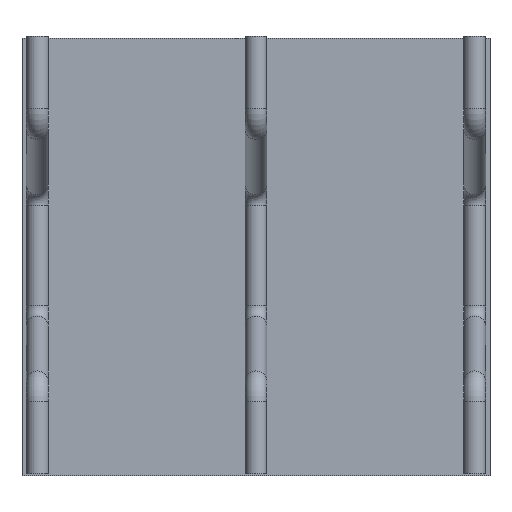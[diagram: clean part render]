
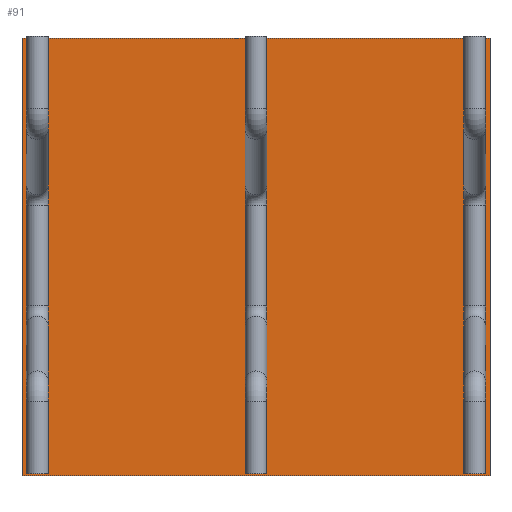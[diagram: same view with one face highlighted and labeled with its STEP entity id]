
A CAD part, top view. The second image highlights one B-rep face of the part: STEP entity #91.
In plain terms, the highlighted planar face has unit normal (0, 0, 1).
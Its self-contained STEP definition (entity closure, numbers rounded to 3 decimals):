
#52=CARTESIAN_POINT('Axis2P3D Location',(0.,0.,0.)) ;
#57=CARTESIAN_POINT('Line Origine',(0.,500.,0.)) ;
#61=CARTESIAN_POINT('Vertex',(535.,500.,0.)) ;
#63=CARTESIAN_POINT('Vertex',(-535.,500.,0.)) ;
#66=CARTESIAN_POINT('Line Origine',(-535.,0.,0.)) ;
#70=CARTESIAN_POINT('Vertex',(-535.,-500.,0.)) ;
#73=CARTESIAN_POINT('Line Origine',(0.,-500.,0.)) ;
#77=CARTESIAN_POINT('Vertex',(535.,-500.,0.)) ;
#80=CARTESIAN_POINT('Line Origine',(535.,0.,0.)) ;
#53=DIRECTION('Axis2P3D Direction',(0.,0.,1.)) ;
#54=DIRECTION('Axis2P3D XDirection',(1.,0.,0.)) ;
#58=DIRECTION('Vector Direction',(1.,0.,0.)) ;
#67=DIRECTION('Vector Direction',(0.,1.,0.)) ;
#74=DIRECTION('Vector Direction',(-1.,0.,0.)) ;
#81=DIRECTION('Vector Direction',(0.,-1.,0.)) ;
#55=AXIS2_PLACEMENT_3D('Plane Axis2P3D',#52,#53,#54) ;
#86=ORIENTED_EDGE('',*,*,#65,.T.) ;
#87=ORIENTED_EDGE('',*,*,#72,.T.) ;
#88=ORIENTED_EDGE('',*,*,#79,.T.) ;
#89=ORIENTED_EDGE('',*,*,#84,.T.) ;
#59=VECTOR('Line Direction',#58,1.) ;
#68=VECTOR('Line Direction',#67,1.) ;
#75=VECTOR('Line Direction',#74,1.) ;
#82=VECTOR('Line Direction',#81,1.) ;
#91=ADVANCED_FACE('Fill.1',(#90),#56,.T.) ;
#65=EDGE_CURVE('',#62,#64,#60,.F.) ;
#72=EDGE_CURVE('',#64,#71,#69,.F.) ;
#79=EDGE_CURVE('',#71,#78,#76,.F.) ;
#84=EDGE_CURVE('',#78,#62,#83,.F.) ;
#85=EDGE_LOOP('',(#86,#87,#88,#89)) ;
#90=FACE_OUTER_BOUND('',#85,.T.) ;
#60=LINE('Line',#57,#59) ;
#69=LINE('Line',#66,#68) ;
#76=LINE('Line',#73,#75) ;
#83=LINE('Line',#80,#82) ;
#56=PLANE('',#55) ;
#62=VERTEX_POINT('',#61) ;
#64=VERTEX_POINT('',#63) ;
#71=VERTEX_POINT('',#70) ;
#78=VERTEX_POINT('',#77) ;
